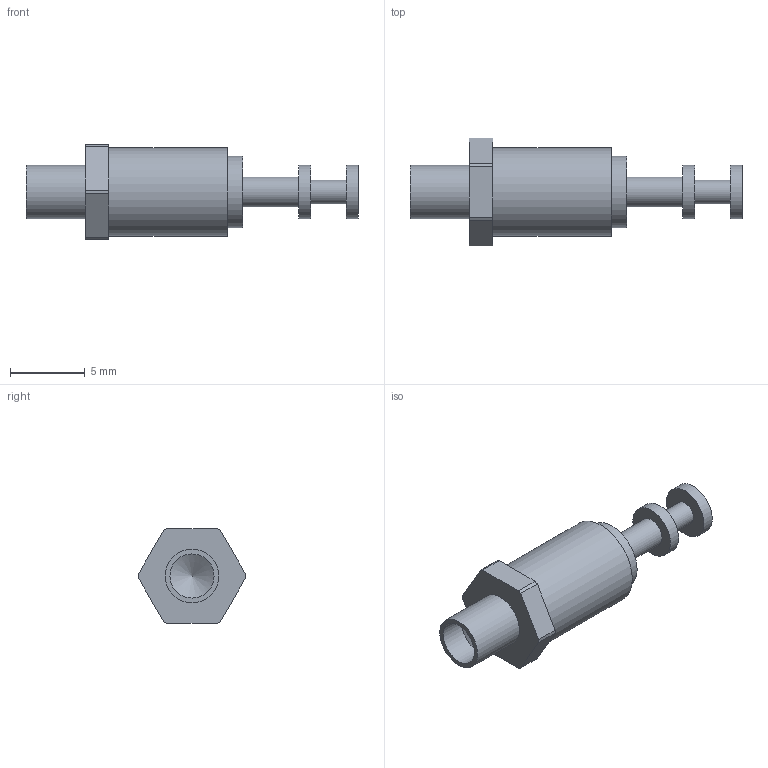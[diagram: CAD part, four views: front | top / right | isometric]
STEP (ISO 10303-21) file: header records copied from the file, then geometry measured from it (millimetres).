
FILE_DESCRIPTION(/* description */ (''),/* implementation_level */ '2;1');
FILE_NAME(/* name */ '\\Snap1\dwgs\Customer 3D Models\572\572-4813-03 Customer model.stp',/* time_stamp */ '2017-01-10T12:44:24+00:00',/* author */ ('paulk'),/* organization */ (''),/* preprocessor_version */ 'ST-DEVELOPER v15.2',/* originating_system */ 'Autodesk Inventor 2014',/* authorisation */ '');
FILE_SCHEMA (('CONFIG_CONTROL_DESIGN'));
Length unit declared in the file: millimetre
Products named in the file (1): 572-4813-03 Customer model
Bounding box: 22.22 x 7.2 x 6.35 mm (x, y, z)
Volume: 347.6 mm3; surface area: 411.1 mm2
Topology: 1 solids, 1 shells, 30 faces, 62 edges, 41 vertices
Faces by surface type: plane 15, cylinder 14, cone 1
Full cylindrical faces by diameter (mm): 1.575 x1, 1.981 x1, 2.946 x1, 3.556 x2, 3.581 x1, 4.775 x1, 5.893 x1
Entity records: 831 total; most frequent: DIRECTION 142, CARTESIAN_POINT 123, ORIENTED_EDGE 104, AXIS2_PLACEMENT_3D 59, EDGE_CURVE 52, EDGE_LOOP 46, VERTEX_POINT 40, STYLED_ITEM 31
